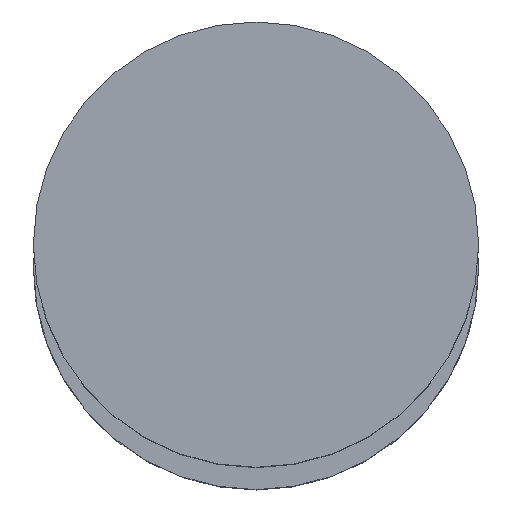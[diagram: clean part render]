
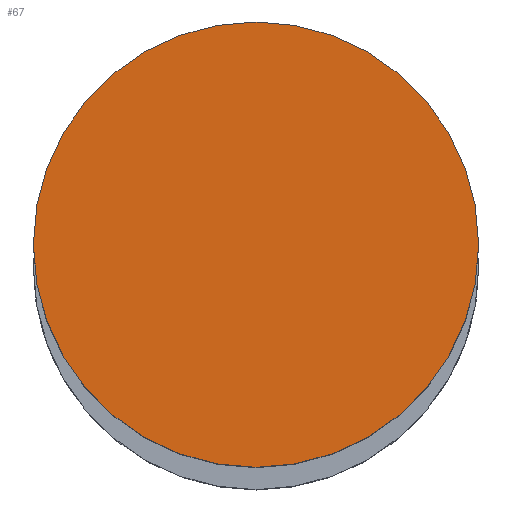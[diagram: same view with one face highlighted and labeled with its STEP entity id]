
A CAD part, top view. The second image highlights one B-rep face of the part: STEP entity #67.
In plain terms, the highlighted planar face has unit normal (0, 0, 1).
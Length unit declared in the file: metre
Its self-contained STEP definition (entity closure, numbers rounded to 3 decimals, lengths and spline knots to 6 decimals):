
#67=ADVANCED_FACE('0:57',(#136),#137,.F.);
#136=FACE_OUTER_BOUND('',#215,.T.);
#137=PLANE('',#216);
#215=EDGE_LOOP('',(#316,#317));
#216=AXIS2_PLACEMENT_3D('',#318,#319,#320);
#316=ORIENTED_EDGE('',*,*,#447,.F.);
#317=ORIENTED_EDGE('',*,*,#457,.F.);
#318=CARTESIAN_POINT('',(-0.000092,0.000095,3.624));
#319=DIRECTION('',(0.0,0.0,-1.0));
#320=DIRECTION('',(0.0,-1.0,0.0));
#447=EDGE_CURVE('0:63',#531,#527,#533,.T.);
#457=EDGE_CURVE('',#527,#531,#547,.T.);
#527=VERTEX_POINT('',#639);
#531=VERTEX_POINT('',#644);
#533=CIRCLE('',#647,0.0155);
#547=CIRCLE('',#663,0.0155);
#639=CARTESIAN_POINT('',(0.015408,0.000095,3.624));
#644=CARTESIAN_POINT('',(-0.015592,0.000095,3.624));
#647=AXIS2_PLACEMENT_3D('',#760,#761,#762);
#663=AXIS2_PLACEMENT_3D('',#777,#778,#779);
#760=CARTESIAN_POINT('',(-0.000092,0.000095,3.624));
#761=DIRECTION('',(0.0,0.0,-1.0));
#762=DIRECTION('',(1.0,0.0,0.0));
#777=CARTESIAN_POINT('',(-0.000092,0.000095,3.624));
#778=DIRECTION('',(0.0,0.0,-1.0));
#779=DIRECTION('',(1.0,0.0,0.0));
